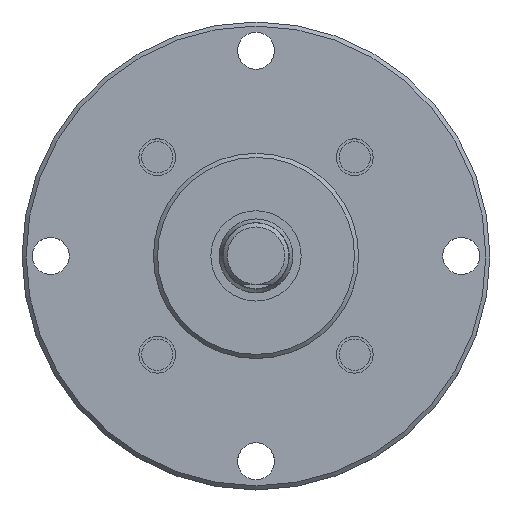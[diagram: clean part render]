
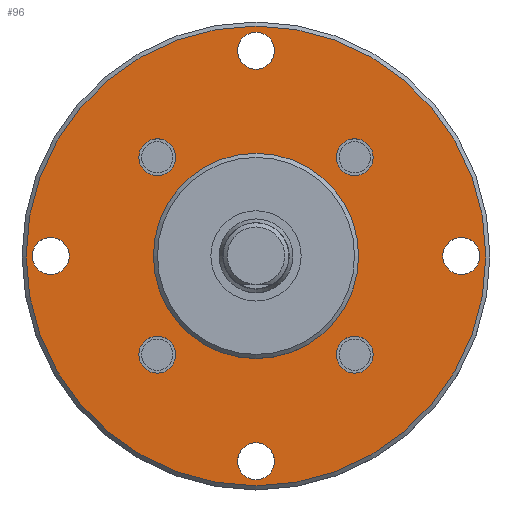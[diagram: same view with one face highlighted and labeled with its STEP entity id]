
A CAD part, top view. The second image highlights one B-rep face of the part: STEP entity #96.
In plain terms, the highlighted planar face has unit normal (0, 0, 1).
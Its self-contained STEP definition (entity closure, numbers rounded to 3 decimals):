
#68=PLANE('',#755);
#96=ADVANCED_FACE('',(#191,#192,#193,#194,#195,#196,#197,#198,#199,#200),
#68,.T.);
#191=FACE_BOUND('',#303,.T.);
#192=FACE_BOUND('',#304,.T.);
#193=FACE_BOUND('',#305,.T.);
#194=FACE_BOUND('',#306,.T.);
#195=FACE_BOUND('',#307,.T.);
#196=FACE_BOUND('',#308,.T.);
#197=FACE_BOUND('',#309,.T.);
#198=FACE_BOUND('',#310,.T.);
#199=FACE_BOUND('',#311,.T.);
#200=FACE_BOUND('',#312,.T.);
#303=EDGE_LOOP('',(#422));
#304=EDGE_LOOP('',(#423));
#305=EDGE_LOOP('',(#424));
#306=EDGE_LOOP('',(#425));
#307=EDGE_LOOP('',(#426));
#308=EDGE_LOOP('',(#427));
#309=EDGE_LOOP('',(#428));
#310=EDGE_LOOP('',(#429));
#311=EDGE_LOOP('',(#430));
#312=EDGE_LOOP('',(#431));
#422=ORIENTED_EDGE('',*,*,#614,.T.);
#423=ORIENTED_EDGE('',*,*,#615,.T.);
#424=ORIENTED_EDGE('',*,*,#616,.T.);
#425=ORIENTED_EDGE('',*,*,#617,.T.);
#426=ORIENTED_EDGE('',*,*,#618,.F.);
#427=ORIENTED_EDGE('',*,*,#619,.F.);
#428=ORIENTED_EDGE('',*,*,#620,.F.);
#429=ORIENTED_EDGE('',*,*,#621,.F.);
#430=ORIENTED_EDGE('',*,*,#622,.T.);
#431=ORIENTED_EDGE('',*,*,#608,.T.);
#545=VERTEX_POINT('',#1108);
#551=VERTEX_POINT('',#1122);
#552=VERTEX_POINT('',#1124);
#553=VERTEX_POINT('',#1126);
#554=VERTEX_POINT('',#1128);
#555=VERTEX_POINT('',#1130);
#556=VERTEX_POINT('',#1132);
#557=VERTEX_POINT('',#1134);
#558=VERTEX_POINT('',#1136);
#559=VERTEX_POINT('',#1138);
#608=EDGE_CURVE('',#545,#545,#673,.T.);
#614=EDGE_CURVE('',#551,#551,#679,.T.);
#615=EDGE_CURVE('',#552,#552,#680,.T.);
#616=EDGE_CURVE('',#553,#553,#681,.T.);
#617=EDGE_CURVE('',#554,#554,#682,.T.);
#618=EDGE_CURVE('',#555,#555,#683,.T.);
#619=EDGE_CURVE('',#556,#556,#684,.T.);
#620=EDGE_CURVE('',#557,#557,#685,.T.);
#621=EDGE_CURVE('',#558,#558,#686,.T.);
#622=EDGE_CURVE('',#559,#559,#687,.T.);
#673=CIRCLE('',#738,12.5);
#679=CIRCLE('',#746,2.25);
#680=CIRCLE('',#747,2.25);
#681=CIRCLE('',#748,2.25);
#682=CIRCLE('',#749,2.25);
#683=CIRCLE('',#750,2.25);
#684=CIRCLE('',#751,2.25);
#685=CIRCLE('',#752,2.25);
#686=CIRCLE('',#753,2.25);
#687=CIRCLE('',#754,28.);
#738=AXIS2_PLACEMENT_3D('',#1107,#871,#872);
#746=AXIS2_PLACEMENT_3D('',#1121,#887,#888);
#747=AXIS2_PLACEMENT_3D('',#1123,#889,#890);
#748=AXIS2_PLACEMENT_3D('',#1125,#891,#892);
#749=AXIS2_PLACEMENT_3D('',#1127,#893,#894);
#750=AXIS2_PLACEMENT_3D('',#1129,#895,#896);
#751=AXIS2_PLACEMENT_3D('',#1131,#897,#898);
#752=AXIS2_PLACEMENT_3D('',#1133,#899,#900);
#753=AXIS2_PLACEMENT_3D('',#1135,#901,#902);
#754=AXIS2_PLACEMENT_3D('',#1137,#903,#904);
#755=AXIS2_PLACEMENT_3D('',#1139,#905,#906);
#871=DIRECTION('',(0.,0.,-1.));
#872=DIRECTION('',(1.,0.,0.));
#887=DIRECTION('',(0.,0.,-1.));
#888=DIRECTION('',(0.,1.,0.));
#889=DIRECTION('',(0.,0.,-1.));
#890=DIRECTION('',(1.,0.,0.));
#891=DIRECTION('',(0.,0.,-1.));
#892=DIRECTION('',(0.,-1.,0.));
#893=DIRECTION('',(0.,0.,-1.));
#894=DIRECTION('',(-1.,0.,0.));
#895=DIRECTION('',(0.,0.,1.));
#896=DIRECTION('',(0.,-1.,0.));
#897=DIRECTION('',(0.,0.,1.));
#898=DIRECTION('',(-1.,0.,0.));
#899=DIRECTION('',(0.,0.,1.));
#900=DIRECTION('',(0.,1.,0.));
#901=DIRECTION('',(0.,0.,1.));
#902=DIRECTION('',(1.,0.,0.));
#903=DIRECTION('',(0.,0.,1.));
#904=DIRECTION('',(1.,0.,0.));
#905=DIRECTION('',(0.,0.,1.));
#906=DIRECTION('',(1.,0.,0.));
#1107=CARTESIAN_POINT('',(0.,0.,0.));
#1108=CARTESIAN_POINT('',(12.5,0.,0.));
#1121=CARTESIAN_POINT('',(25.,0.,0.));
#1122=CARTESIAN_POINT('',(25.,2.25,0.));
#1123=CARTESIAN_POINT('',(0.,-25.,0.));
#1124=CARTESIAN_POINT('',(2.25,-25.,0.));
#1125=CARTESIAN_POINT('',(-25.,0.,0.));
#1126=CARTESIAN_POINT('',(-25.,-2.25,0.));
#1127=CARTESIAN_POINT('',(0.,25.,0.));
#1128=CARTESIAN_POINT('',(-2.25,25.,0.));
#1129=CARTESIAN_POINT('',(12.021,12.021,0.));
#1130=CARTESIAN_POINT('',(12.021,9.771,0.));
#1131=CARTESIAN_POINT('',(12.021,-12.021,0.));
#1132=CARTESIAN_POINT('',(9.771,-12.021,0.));
#1133=CARTESIAN_POINT('',(-12.021,-12.021,0.));
#1134=CARTESIAN_POINT('',(-12.021,-9.771,0.));
#1135=CARTESIAN_POINT('',(-12.021,12.021,0.));
#1136=CARTESIAN_POINT('',(-9.771,12.021,0.));
#1137=CARTESIAN_POINT('',(0.,0.,0.));
#1138=CARTESIAN_POINT('',(28.,0.,0.));
#1139=CARTESIAN_POINT('',(0.,0.,0.));
